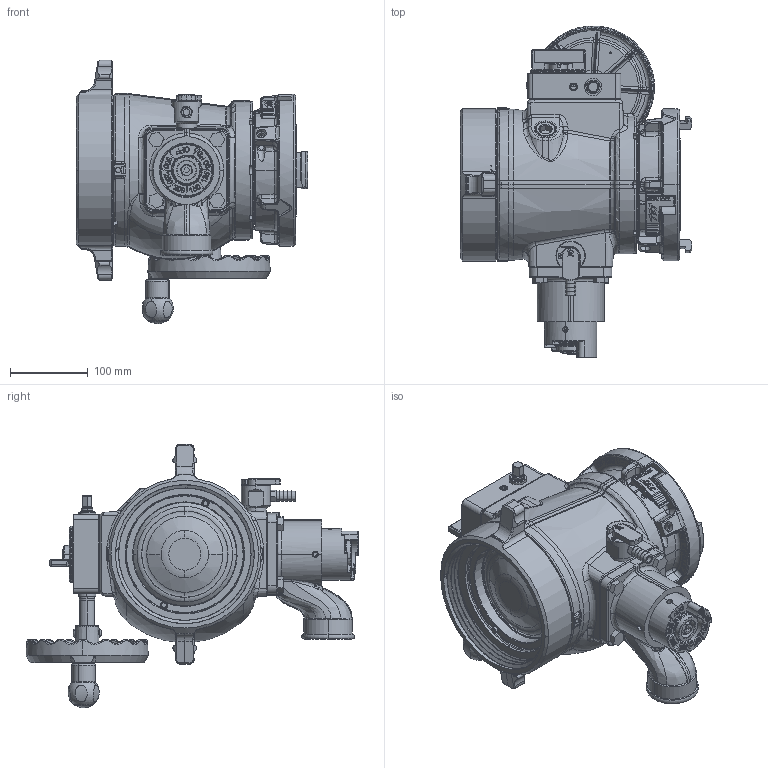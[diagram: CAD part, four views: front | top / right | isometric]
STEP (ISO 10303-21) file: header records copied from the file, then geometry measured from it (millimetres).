
FILE_DESCRIPTION (( 'STEP AP203' ), '1' );
FILE_NAME ('AP1ST-NX.step', '2014-05-13T19:13:32', ( 'user' ), ( '' ), 'SwSTEP 2.0', 'SolidWorks 2012', '' );
FILE_SCHEMA (( 'CONFIG_CONTROL_DESIGN' ));
Length unit declared in the file: inch
Products named in the file (1): AP1ST-NX
Bounding box: 298.6 x 428.06 x 339.79 mm (x, y, z)
Surface area: 663034.2 mm2 (no closed solid volume)
Topology: 0 solids, 140 shells, 2523 faces, 11587 edges, 8925 vertices
Faces by surface type: plane 809, bspline 680, cylinder 516, cone 267, torus 207, sphere 44
Entity records: 190723 total; most frequent: CARTESIAN_POINT 108365, ORIENTED_EDGE 16587, DIRECTION 13970, EDGE_CURVE 11551, VERTEX_POINT 8920, VECTOR 5354, LINE 5354, AXIS2_PLACEMENT_3D 4308
